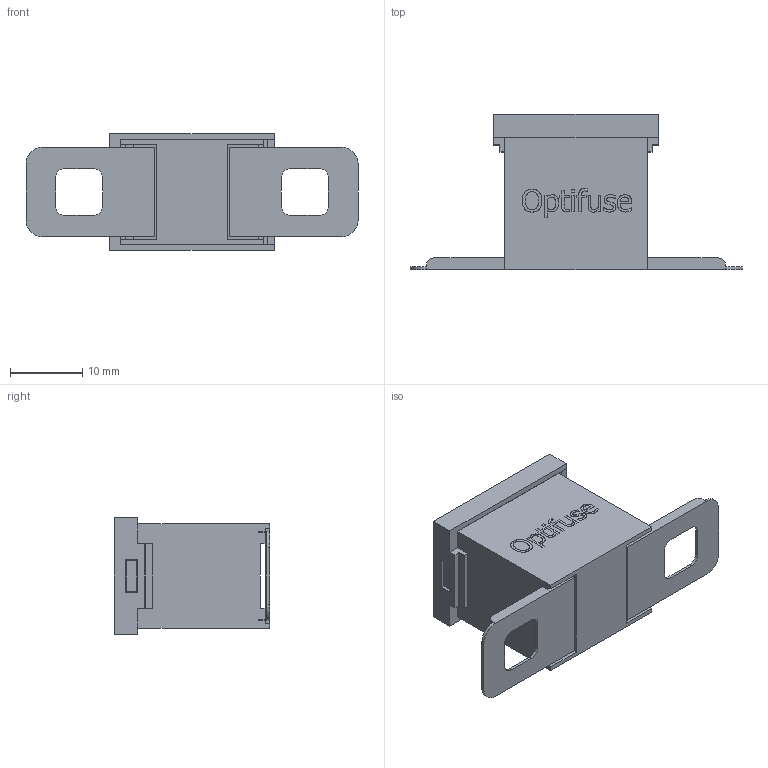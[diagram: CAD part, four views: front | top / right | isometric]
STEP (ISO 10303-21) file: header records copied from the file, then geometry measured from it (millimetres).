
FILE_DESCRIPTION(/* description */ (''),/* implementation_level */ '2;1');
FILE_NAME(/* name */ 'C:\Users\Hani\Desktop\work\TFLD\TFLD.stp',/* time_stamp */ '2021-10-16T16:14:09-07:00',/* author */ ('Hani'),/* organization */ (''),/* preprocessor_version */ 'ST-DEVELOPER v17',/* originating_system */ 'Autodesk Inventor 2019',/* authorisation */ '');
FILE_SCHEMA (('AUTOMOTIVE_DESIGN { 1 0 10303 214 3 1 1 }'));
Length unit declared in the file: inch
Products named in the file (1): TFLD
Bounding box: 46 x 21.5 x 16.2 mm (x, y, z)
Volume: 3047.7 mm3; surface area: 5448.3 mm2
Topology: 4 solids, 4 shells, 277 faces, 780 edges, 516 vertices
Faces by surface type: plane 186, bspline 67, cylinder 24
Entity records: 9508 total; most frequent: CARTESIAN_POINT 2656, ORIENTED_EDGE 1560, DIRECTION 1112, EDGE_CURVE 780, LINE 602, VECTOR 602, VERTEX_POINT 516, EDGE_LOOP 296
